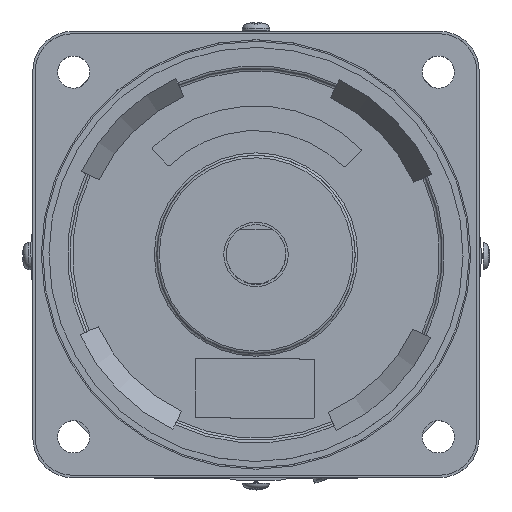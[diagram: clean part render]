
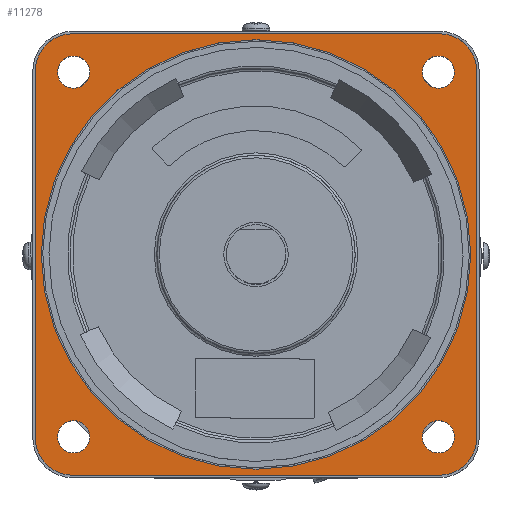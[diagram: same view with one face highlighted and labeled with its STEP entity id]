
A CAD part, top view. The second image highlights one B-rep face of the part: STEP entity #11278.
In plain terms, the highlighted planar face has unit normal (0, 0, 1).
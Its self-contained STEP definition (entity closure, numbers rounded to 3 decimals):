
#588=FACE_BOUND('',#1619,.T.);
#589=FACE_BOUND('',#1620,.T.);
#590=FACE_BOUND('',#1621,.T.);
#591=FACE_BOUND('',#1622,.T.);
#592=FACE_BOUND('',#1623,.T.);
#714=PLANE('',#11955);
#972=FACE_OUTER_BOUND('',#1618,.T.);
#1618=EDGE_LOOP('',(#7219,#7220,#7221,#7222,#7223,#7224,#7225,#7226));
#1619=EDGE_LOOP('',(#7227));
#1620=EDGE_LOOP('',(#7228));
#1621=EDGE_LOOP('',(#7229));
#1622=EDGE_LOOP('',(#7230));
#1623=EDGE_LOOP('',(#7231));
#2436=CIRCLE('',#11956,7.5);
#2437=CIRCLE('',#11957,7.5);
#2438=CIRCLE('',#11958,7.5);
#2439=CIRCLE('',#11959,7.5);
#2440=CIRCLE('',#11960,3.25);
#2441=CIRCLE('',#11961,3.25);
#2442=CIRCLE('',#11962,43.3);
#2443=CIRCLE('',#11963,3.25);
#2444=CIRCLE('',#11964,3.25);
#3140=LINE('',#16668,#3790);
#3141=LINE('',#16672,#3791);
#3142=LINE('',#16676,#3792);
#3143=LINE('',#16679,#3793);
#3790=VECTOR('',#13313,74.);
#3791=VECTOR('',#13316,74.);
#3792=VECTOR('',#13319,74.);
#3793=VECTOR('',#13322,74.);
#4452=VERTEX_POINT('',#16664);
#4453=VERTEX_POINT('',#16665);
#4454=VERTEX_POINT('',#16667);
#4455=VERTEX_POINT('',#16669);
#4456=VERTEX_POINT('',#16671);
#4457=VERTEX_POINT('',#16673);
#4458=VERTEX_POINT('',#16675);
#4459=VERTEX_POINT('',#16677);
#4460=VERTEX_POINT('',#16680);
#4461=VERTEX_POINT('',#16682);
#4462=VERTEX_POINT('',#16684);
#4463=VERTEX_POINT('',#16686);
#4464=VERTEX_POINT('',#16688);
#5549=EDGE_CURVE('',#4452,#4453,#2436,.T.);
#5550=EDGE_CURVE('',#4454,#4452,#3140,.T.);
#5551=EDGE_CURVE('',#4455,#4454,#2437,.T.);
#5552=EDGE_CURVE('',#4456,#4455,#3141,.T.);
#5553=EDGE_CURVE('',#4457,#4456,#2438,.T.);
#5554=EDGE_CURVE('',#4458,#4457,#3142,.T.);
#5555=EDGE_CURVE('',#4459,#4458,#2439,.T.);
#5556=EDGE_CURVE('',#4453,#4459,#3143,.T.);
#5557=EDGE_CURVE('',#4460,#4460,#2440,.F.);
#5558=EDGE_CURVE('',#4461,#4461,#2441,.F.);
#5559=EDGE_CURVE('',#4462,#4462,#2442,.T.);
#5560=EDGE_CURVE('',#4463,#4463,#2443,.F.);
#5561=EDGE_CURVE('',#4464,#4464,#2444,.F.);
#7219=ORIENTED_EDGE('',*,*,#5549,.F.);
#7220=ORIENTED_EDGE('',*,*,#5550,.F.);
#7221=ORIENTED_EDGE('',*,*,#5551,.F.);
#7222=ORIENTED_EDGE('',*,*,#5552,.F.);
#7223=ORIENTED_EDGE('',*,*,#5553,.F.);
#7224=ORIENTED_EDGE('',*,*,#5554,.F.);
#7225=ORIENTED_EDGE('',*,*,#5555,.F.);
#7226=ORIENTED_EDGE('',*,*,#5556,.F.);
#7227=ORIENTED_EDGE('',*,*,#5557,.F.);
#7228=ORIENTED_EDGE('',*,*,#5558,.F.);
#7229=ORIENTED_EDGE('',*,*,#5559,.T.);
#7230=ORIENTED_EDGE('',*,*,#5560,.F.);
#7231=ORIENTED_EDGE('',*,*,#5561,.F.);
#11278=ADVANCED_FACE('',(#972,#588,#589,#590,#591,#592),#714,.T.);
#11955=AXIS2_PLACEMENT_3D('',#16663,#13309,#13310);
#11956=AXIS2_PLACEMENT_3D('',#16666,#13311,#13312);
#11957=AXIS2_PLACEMENT_3D('',#16670,#13314,#13315);
#11958=AXIS2_PLACEMENT_3D('',#16674,#13317,#13318);
#11959=AXIS2_PLACEMENT_3D('',#16678,#13320,#13321);
#11960=AXIS2_PLACEMENT_3D('',#16681,#13323,#13324);
#11961=AXIS2_PLACEMENT_3D('',#16683,#13325,#13326);
#11962=AXIS2_PLACEMENT_3D('',#16685,#13327,#13328);
#11963=AXIS2_PLACEMENT_3D('',#16687,#13329,#13330);
#11964=AXIS2_PLACEMENT_3D('',#16689,#13331,#13332);
#13309=DIRECTION('center_axis',(0.,0.,1.));
#13310=DIRECTION('ref_axis',(1.,0.,0.));
#13311=DIRECTION('center_axis',(0.,0.,-1.));
#13312=DIRECTION('ref_axis',(0.,-1.,0.));
#13313=DIRECTION('',(0.,1.,0.));
#13314=DIRECTION('center_axis',(0.,0.,-1.));
#13315=DIRECTION('ref_axis',(1.,0.,0.));
#13316=DIRECTION('',(-1.,0.,0.));
#13317=DIRECTION('center_axis',(0.,0.,-1.));
#13318=DIRECTION('ref_axis',(0.,1.,0.));
#13319=DIRECTION('',(0.,-1.,0.));
#13320=DIRECTION('center_axis',(0.,0.,-1.));
#13321=DIRECTION('ref_axis',(-1.,0.,0.));
#13322=DIRECTION('',(1.,0.,0.));
#13323=DIRECTION('center_axis',(0.,0.,-1.));
#13324=DIRECTION('ref_axis',(0.,1.,0.));
#13325=DIRECTION('center_axis',(0.,0.,-1.));
#13326=DIRECTION('ref_axis',(-1.,0.,0.));
#13327=DIRECTION('center_axis',(0.,0.,-1.));
#13328=DIRECTION('ref_axis',(0.,1.,0.));
#13329=DIRECTION('center_axis',(0.,0.,-1.));
#13330=DIRECTION('ref_axis',(0.,-1.,0.));
#13331=DIRECTION('center_axis',(0.,0.,-1.));
#13332=DIRECTION('ref_axis',(1.,0.,0.));
#16663=CARTESIAN_POINT('Origin',(0.355,5.246,-6.569));
#16664=CARTESIAN_POINT('',(-44.145,42.246,-6.569));
#16665=CARTESIAN_POINT('',(-36.645,49.746,-6.569));
#16666=CARTESIAN_POINT('Origin',(-36.645,42.246,-6.569));
#16667=CARTESIAN_POINT('',(-44.145,-31.754,-6.569));
#16668=CARTESIAN_POINT('',(-44.145,-31.754,-6.569));
#16669=CARTESIAN_POINT('',(-36.645,-39.254,-6.569));
#16670=CARTESIAN_POINT('Origin',(-36.645,-31.754,-6.569));
#16671=CARTESIAN_POINT('',(37.355,-39.254,-6.569));
#16672=CARTESIAN_POINT('',(37.355,-39.254,-6.569));
#16673=CARTESIAN_POINT('',(44.855,-31.754,-6.569));
#16674=CARTESIAN_POINT('Origin',(37.355,-31.754,-6.569));
#16675=CARTESIAN_POINT('',(44.855,42.246,-6.569));
#16676=CARTESIAN_POINT('',(44.855,42.246,-6.569));
#16677=CARTESIAN_POINT('',(37.355,49.746,-6.569));
#16678=CARTESIAN_POINT('Origin',(37.355,42.246,-6.569));
#16679=CARTESIAN_POINT('',(-36.645,49.746,-6.569));
#16680=CARTESIAN_POINT('',(37.124,-34.774,-6.569));
#16681=CARTESIAN_POINT('Origin',(37.124,-31.524,-6.569));
#16682=CARTESIAN_POINT('',(40.374,42.015,-6.569));
#16683=CARTESIAN_POINT('Origin',(37.124,42.015,-6.569));
#16684=CARTESIAN_POINT('',(43.655,5.246,-6.569));
#16685=CARTESIAN_POINT('Origin',(0.355,5.246,-6.569));
#16686=CARTESIAN_POINT('',(-36.415,45.265,-6.569));
#16687=CARTESIAN_POINT('Origin',(-36.415,42.015,-6.569));
#16688=CARTESIAN_POINT('',(-39.665,-31.524,-6.569));
#16689=CARTESIAN_POINT('Origin',(-36.415,-31.524,-6.569));
